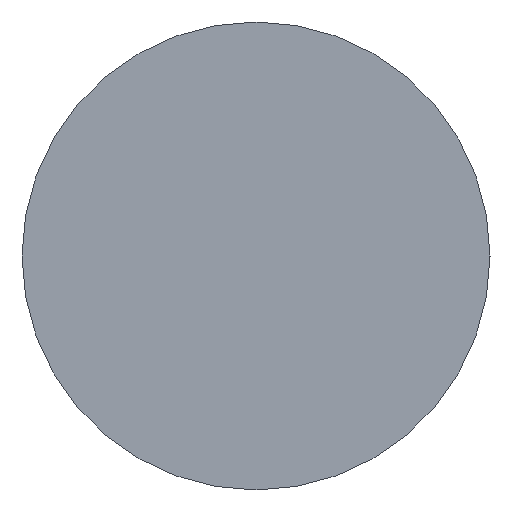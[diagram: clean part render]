
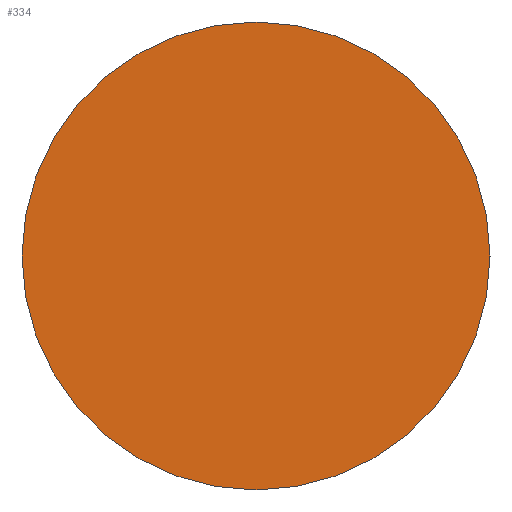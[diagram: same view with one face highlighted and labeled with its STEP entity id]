
A CAD part, left-side view. The second image highlights one B-rep face of the part: STEP entity #334.
In plain terms, the highlighted planar face has unit normal (-1, 0, 0).
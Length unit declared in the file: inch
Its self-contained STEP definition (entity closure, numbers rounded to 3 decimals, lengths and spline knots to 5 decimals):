
#5 = CIRCLE ( 'NONE', #46, 0.375 ) ;
#17 = EDGE_CURVE ( 'NONE', #188, #345, #270, .T. ) ;
#26 = FACE_OUTER_BOUND ( 'NONE', #348, .T. ) ;
#46 = AXIS2_PLACEMENT_3D ( 'NONE', #262, #221, #323 ) ;
#72 = ORIENTED_EDGE ( 'NONE', *, *, #228, .T. ) ;
#74 = ORIENTED_EDGE ( 'NONE', *, *, #17, .T. ) ;
#75 = AXIS2_PLACEMENT_3D ( 'NONE', #288, #339, #311 ) ;
#87 = CARTESIAN_POINT ( 'NONE',  ( -4., 0.375, 0. ) ) ;
#170 = CARTESIAN_POINT ( 'NONE',  ( -4., 0., -0.375 ) ) ;
#188 = VERTEX_POINT ( 'NONE', #212 ) ;
#198 = DIRECTION ( 'NONE',  ( 1., 0., 0. ) ) ;
#199 = PLANE ( 'NONE',  #351 ) ;
#212 = CARTESIAN_POINT ( 'NONE',  ( -4., 0., 0.375 ) ) ;
#221 = DIRECTION ( 'NONE',  ( -1., 0., 0. ) ) ;
#228 = EDGE_CURVE ( 'NONE', #345, #188, #5, .T. ) ;
#262 = CARTESIAN_POINT ( 'NONE',  ( -4., 0., 0. ) ) ;
#270 = CIRCLE ( 'NONE', #75, 0.375 ) ;
#288 = CARTESIAN_POINT ( 'NONE',  ( -4., 0., 0. ) ) ;
#305 = DIRECTION ( 'NONE',  ( 0., 0., -1. ) ) ;
#311 = DIRECTION ( 'NONE',  ( 0., 0., 1. ) ) ;
#323 = DIRECTION ( 'NONE',  ( 0., 0., 1. ) ) ;
#334 = ADVANCED_FACE ( 'NONE', ( #26 ), #199, .F. ) ;
#339 = DIRECTION ( 'NONE',  ( -1., 0., 0. ) ) ;
#345 = VERTEX_POINT ( 'NONE', #170 ) ;
#348 = EDGE_LOOP ( 'NONE', ( #74, #72 ) ) ;
#351 = AXIS2_PLACEMENT_3D ( 'NONE', #87, #198, #305 ) ;
